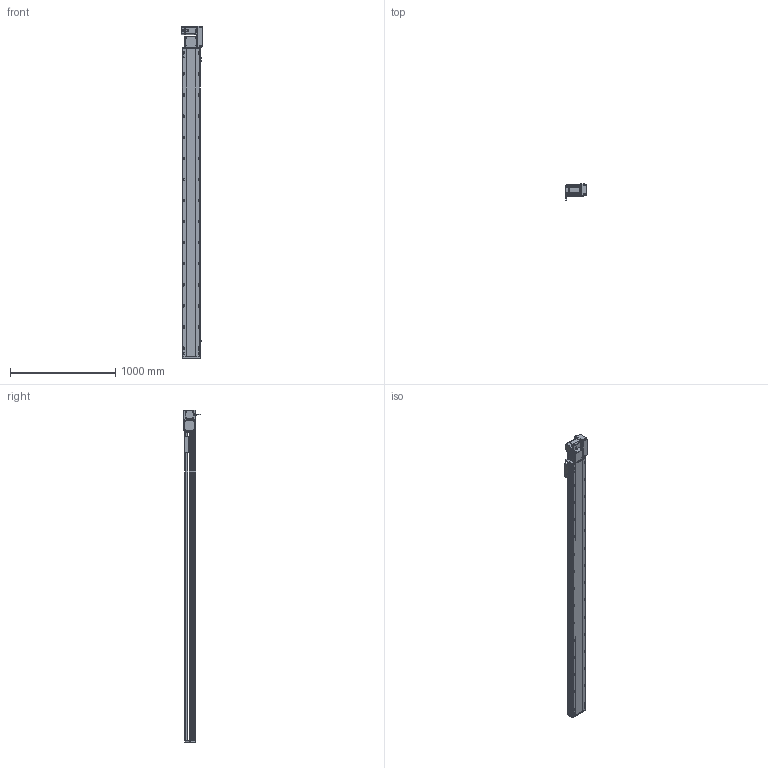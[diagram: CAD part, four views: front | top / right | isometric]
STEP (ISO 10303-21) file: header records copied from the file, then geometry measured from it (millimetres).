
FILE_DESCRIPTION (( 'STEP AP214' ), '1' );
FILE_NAME ('RTB17S-XX-2650-R-M75-C4.STEP', '2025-12-12T01:48:12', ( '' ), ( '' ), 'SwSTEP 2.0', 'SolidWorks 2018', '' );
FILE_SCHEMA (( 'AUTOMOTIVE_DESIGN' ));
Length unit declared in the file: millimetre
Products named in the file (15): RTB22S-GY-017P^RTB17S-R-々湍釱蚾饜-750W_RTB17S-XX-XX-R-M75-C4; RTB17S-L-007奻裔^RTB17S-XX-XX-R-M75-C4; RTB17S-R-々湍釱蚾饜-750W^RTB17S-XX-XX-R-M75-C4; RTB17S-L-004-賑釱^RTB17S-賑釱_RTB17S-XX-XX-R-M75-C4; EE672^RTB17S-XX-XX-R-M75-C4; RTB17S-L-001-耜醱啣^RTB17S-XX-XX-R-M75-C4; RTB17-R-011菁釱^RTB17S-XX-XX-R-M75-C4; 750W萇儂^RTB17S-XX-XX-R-M75-C4; RTH13-BL-012覜茼え俋离^RTB17S-賑釱_RTB17S-XX-XX-R-M75-C4; RTB17S-賑釱^RTB17S-XX-XX-R-M75-C4; RTB22S-GY-005P^RTB17S-R-々湍釱蚾饜-750W_RTB17S-XX-XX-R-M75-C4; RTB22S-GY-008-M75--萇儂啣^RTB17S-R-々湍釱蚾饜-750W_RTB17S-XX-XX-R-M75-C4; RTB17S-XX-2650-R-M75-C4; RTB22S-GY-018P^RTB17S-R-々湍釱蚾饜-750W_RTB17S-XX-XX-R-M75-C4; RTB17S-L-014-T20-P75--々湍釱^RTB17S-R-々湍釱蚾饜-750W_RTB17S-XX-XX-R-M75-C4
Assembly tree (17 placements, depth 3):
  RTB17S-XX-2650-R-M75-C4
    RTB17-R-011菁釱^RTB17S-XX-XX-R-M75-C4
    EE672^RTB17S-XX-XX-R-M75-C4  x3
    RTB17S-L-001-耜醱啣^RTB17S-XX-XX-R-M75-C4
    RTB17S-賑釱^RTB17S-XX-XX-R-M75-C4
      RTB17S-L-004-賑釱^RTB17S-賑釱_RTB17S-XX-XX-R-M75-C4
      RTH13-BL-012覜茼え俋离^RTB17S-賑釱_RTB17S-XX-XX-R-M75-C4
    RTB17S-L-007奻裔^RTB17S-XX-XX-R-M75-C4
    750W萇儂^RTB17S-XX-XX-R-M75-C4
    RTB17S-R-々湍釱蚾饜-750W^RTB17S-XX-XX-R-M75-C4
      RTB17S-L-014-T20-P75--々湍釱^RTB17S-R-々湍釱蚾饜-750W_RTB17S-XX-XX-R-M75-C4
      RTB22S-GY-005P^RTB17S-R-々湍釱蚾饜-750W_RTB17S-XX-XX-R-M75-C4
      RTB22S-GY-017P^RTB17S-R-々湍釱蚾饜-750W_RTB17S-XX-XX-R-M75-C4  x2
      RTB22S-GY-008-M75--萇儂啣^RTB17S-R-々湍釱蚾饜-750W_RTB17S-XX-XX-R-M75-C4
      RTB22S-GY-018P^RTB17S-R-々湍釱蚾饜-750W_RTB17S-XX-XX-R-M75-C4
Bounding box: 207.4 x 152.7 x 3149 mm (x, y, z)
Volume: 22510308.9 mm3; surface area: 4099460.9 mm2
Topology: 17 solids, 17 shells, 2233 faces, 6268 edges, 4058 vertices
Faces by surface type: plane 988, cylinder 829, bspline 294, cone 110, sphere 8, torus 4
Entity records: 65014 total; most frequent: CARTESIAN_POINT 19332, ORIENTED_EDGE 9380, DIRECTION 8672, EDGE_CURVE 4690, AXIS2_PLACEMENT_3D 3078, VERTEX_POINT 3062, LINE 2516, VECTOR 2516
